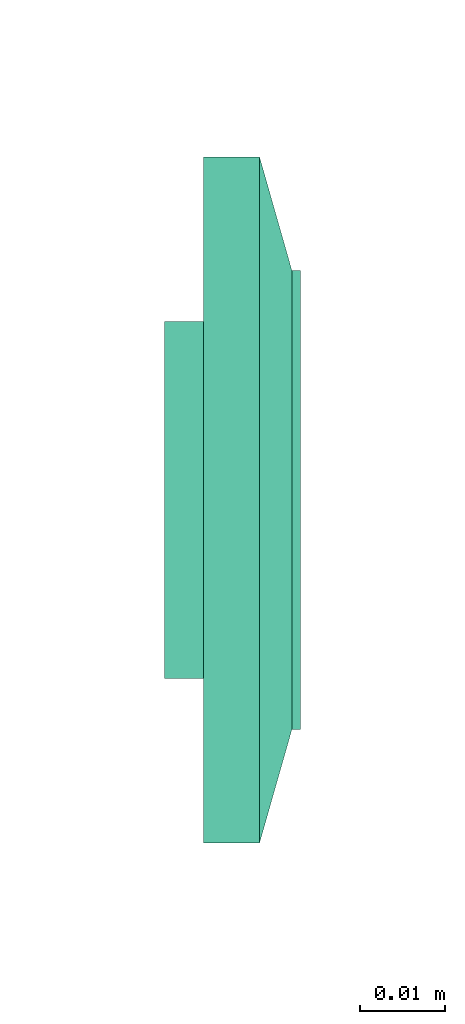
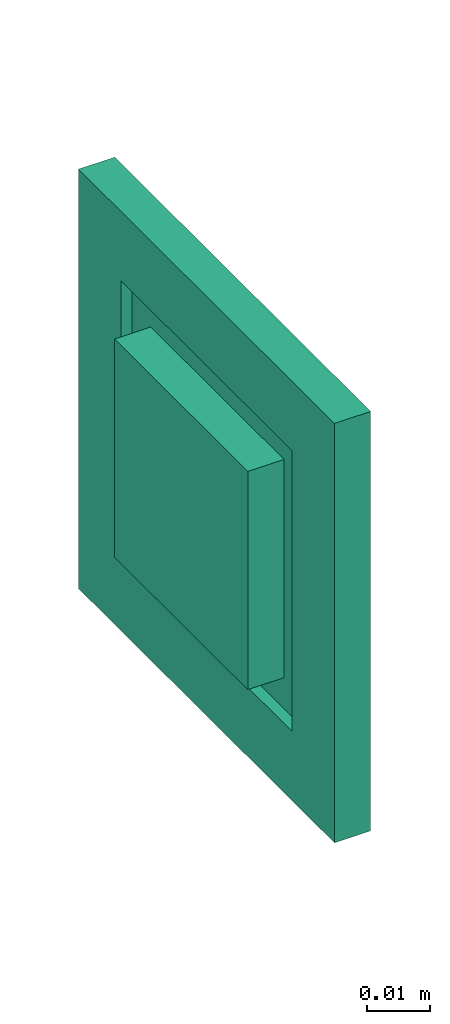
# One storey, part 11 of 146: 1 flow terminal.
"""IFC2X3 building model written with IfcOpenShell, lengths in metres."""

import ifcopenshell
import ifcopenshell.guid

model = None  # the IFC model being written
_history = None  # IfcOwnerHistory: only IFC2X3 demands one
_inside = {}  # id of a spatial element -> (the spatial element, [elements in it])
_under = {}  # id of a project, library or spatial element -> (it, [spatial elements below it])
_declared = {}  # id of a project -> (the project, [libraries it declares])
_typed = {}  # id of a type object -> (the type object, [elements of that type])
_made_of = {}  # id of a material, layer set ... -> (it, [elements and type objects made of it])


def new_model(schema):
    """Start an empty IFC model of exactly this schema.

    Asked for "IFC4X3", IfcOpenShell would pick the latest addendum, in which some entities
    have other attributes; the version numbers below select the first issue.
    IFC2X3 requires an IfcOwnerHistory on every rooted entity: one is made here for all.
    """
    global model, _history
    if schema == "IFC4X3":
        model = ifcopenshell.file(schema_version=(4, 3, 0, 0))
    else:
        model = ifcopenshell.file(schema=schema)
    _inside.clear()
    _under.clear()
    _declared.clear()
    _typed.clear()
    _made_of.clear()
    _history = None
    if model.schema == "IFC2X3":
        org = make("IfcOrganization", Name="unknown")
        user = make(
            "IfcPersonAndOrganization",
            ThePerson=make("IfcPerson", FamilyName="unknown"),
            TheOrganization=org,
        )
        app = make(
            "IfcApplication",
            ApplicationDeveloper=org,
            Version="unknown",
            ApplicationFullName="unknown",
            ApplicationIdentifier="unknown",
        )
        _history = make(
            "IfcOwnerHistory",
            OwningUser=user,
            OwningApplication=app,
            ChangeAction="ADDED",
            CreationDate=0,
        )
    return model


def make(cls, **values):
    """One entity of the class cls with the attributes given. An attribute that is None is left unset."""
    return model.create_entity(
        cls, **{name: value for name, value in values.items() if value is not None}
    )


def entity(cls, *values):
    """Any entity or typed value of the class cls, its attributes in the order of the schema. None: left unset."""
    e = model.create_entity(cls)
    for i, value in enumerate(values):
        if value is not None:
            e[i] = value
    return e


def rooted(cls, **values):
    """An entity with a GlobalId (a new one), such as an element, a storey or a relation."""
    return make(cls, GlobalId=ifcopenshell.guid.new(), OwnerHistory=_history, **values)


def si_unit(unit_type, name, prefix=None):
    """IfcSIUnit, for example si_unit("LENGTHUNIT", "METRE", prefix="MILLI")."""
    return make("IfcSIUnit", UnitType=unit_type, Prefix=prefix, Name=name)


def converted_unit(unit_type, name, factor, base, dimensions=None, offset=None):
    """IfcConversionBasedUnit, such as the inch: factor (a typed value) times the base unit."""
    return make(
        "IfcConversionBasedUnit"
        if offset is None
        else "IfcConversionBasedUnitWithOffset",
        ConversionOffset=offset,
        Dimensions=None
        if dimensions is None
        else entity("IfcDimensionalExponents", *dimensions),
        UnitType=unit_type,
        Name=name,
        ConversionFactor=make(
            "IfcMeasureWithUnit", ValueComponent=factor, UnitComponent=base
        ),
    )


def derived_unit(unit_type, elements):
    """IfcDerivedUnit: a product of units, each with its exponent."""
    return make(
        "IfcDerivedUnit",
        Elements=[
            make("IfcDerivedUnitElement", Unit=unit, Exponent=power)
            for unit, power in elements
        ],
        UnitType=unit_type,
    )


def assignment(units):
    """IfcUnitAssignment: the units of a project."""
    return None if units is None else make("IfcUnitAssignment", Units=units)


def point(xyz):
    """IfcCartesianPoint."""
    return None if xyz is None else make("IfcCartesianPoint", Coordinates=xyz)


def direction(xyz):
    """IfcDirection."""
    return None if xyz is None else make("IfcDirection", DirectionRatios=xyz)


def frame(location, z_axis=None, x_axis=None):
    """IfcAxis2Placement3D, a coordinate frame: its origin and axes. An axis left out is left unset."""
    return make(
        "IfcAxis2Placement3D",
        Location=point(location),
        Axis=direction(z_axis),
        RefDirection=direction(x_axis),
    )


def origin():
    """The frame at (0, 0, 0) with its axes left unset."""
    return frame((0.0, 0.0, 0.0))


def place(relative_to, where):
    """IfcLocalPlacement: puts the frame where relative to a parent placement (None: the world)."""
    return make(
        "IfcLocalPlacement", PlacementRelTo=relative_to, RelativePlacement=where
    )


def context(
    kind, dimensions, precision=None, world=None, true_north=None, identifier=None
):
    """IfcGeometricRepresentationContext, for example the 3D "Model" context."""
    return make(
        "IfcGeometricRepresentationContext",
        ContextIdentifier=identifier,
        ContextType=kind,
        CoordinateSpaceDimension=dimensions,
        Precision=precision,
        WorldCoordinateSystem=world,
        TrueNorth=true_north,
    )


def subcontext(parent, identifier, kind, view, scale=None):
    """IfcGeometricRepresentationSubContext, for example "Body" below "Model"."""
    return make(
        "IfcGeometricRepresentationSubContext",
        ContextIdentifier=identifier,
        ContextType=kind,
        ParentContext=parent,
        TargetScale=scale,
        TargetView=view,
    )


def project(units=None, contexts=None):
    """IfcProject with its units and contexts."""
    return rooted(
        "IfcProject",
        Name="project",
        RepresentationContexts=contexts,
        UnitsInContext=assignment(units),
    )


def spatial(cls, under=None, at=None, **own):
    """A site, building, storey or space (cls), placed at a placement, below another one or the project."""
    s = rooted(cls, ObjectPlacement=at, **own)
    if under is not None:
        _under.setdefault(under.id(), (under, []))[1].append(s)
    return s


def faces_of(points, faces, orient=None, outer=None):
    """IfcFace entities. A face is a list of loops; a loop is a list of indices into points, from 0.

    orient and outer hold one flag for each loop. By default every Orientation is true, the
    first loop of a face is its IfcFaceOuterBound and the others are IfcFaceBound.
    """
    made = []
    for i, loops in enumerate(faces):
        bounds = []
        for j, loop in enumerate(loops):
            is_outer = j == 0 if outer is None else outer[i][j]
            bounds.append(
                make(
                    "IfcFaceOuterBound" if is_outer else "IfcFaceBound",
                    Bound=make("IfcPolyLoop", Polygon=[points[k] for k in loop]),
                    Orientation=True if orient is None else orient[i][j],
                )
            )
        made.append(make("IfcFace", Bounds=bounds))
    return made


def faceted_brep(points, faces, orient=None, outer=None, voids=None):
    """IfcFacetedBrep: a solid bounded by flat faces; with voids (closed shells), ...WithVoids."""
    shared = [point(p) for p in points]
    hull = make("IfcClosedShell", CfsFaces=faces_of(shared, faces, orient, outer))
    if voids is None:
        return make("IfcFacetedBrep", Outer=hull)
    return make(
        "IfcFacetedBrepWithVoids",
        Outer=hull,
        Voids=[
            make(cls, CfsFaces=faces_of(shared, fs, o, b)) for cls, fs, o, b in voids
        ],
    )


def shape(context_of_items, identifier, shape_type, items):
    """IfcShapeRepresentation: the items that make up one representation, for example the "Body"."""
    return make(
        "IfcShapeRepresentation",
        ContextOfItems=context_of_items,
        RepresentationIdentifier=identifier,
        RepresentationType=shape_type,
        Items=items,
    )


def source(mapping_origin, context_of_items, identifier, shape_type, items):
    """IfcRepresentationMap: a shape defined once, which mapped items show again and again."""
    return make(
        "IfcRepresentationMap",
        MappingOrigin=mapping_origin,
        MappedRepresentation=shape(context_of_items, identifier, shape_type, items),
    )


def transform(
    local_origin,
    x_axis=None,
    y_axis=None,
    z_axis=None,
    scale=None,
    scale2=None,
    scale3=None,
    uniform=True,
):
    """IfcCartesianTransformationOperator3D, or its non-uniform kind. x_axis, y_axis, z_axis: its Axis1, 2, 3."""
    if uniform:
        return make(
            "IfcCartesianTransformationOperator3D",
            Axis1=direction(x_axis),
            Axis2=direction(y_axis),
            LocalOrigin=point(local_origin),
            Scale=scale,
            Axis3=direction(z_axis),
        )
    return make(
        "IfcCartesianTransformationOperator3DnonUniform",
        Axis1=direction(x_axis),
        Axis2=direction(y_axis),
        LocalOrigin=point(local_origin),
        Scale=scale,
        Axis3=direction(z_axis),
        Scale2=scale2,
        Scale3=scale3,
    )


def mapped(mapping_source, mapping_target):
    """IfcMappedItem: shows the shape of a source again, moved by a transform."""
    return make(
        "IfcMappedItem", MappingSource=mapping_source, MappingTarget=mapping_target
    )


def made_of(thing, what):
    """Note that an element or type object is made of a material, layer set ...; save() writes the relation."""
    if what is not None:
        _made_of.setdefault(what.id(), (what, []))[1].append(thing)
    return thing


def type_object(cls, material=None, **own):
    """A type object (cls), such as IfcWallType, which elements share."""
    return made_of(rooted(cls, **own), material)


def type_shapes(of_type, sources):
    """Give a type object the sources (RepresentationMaps) that its elements show as mapped items."""
    of_type.RepresentationMaps = sources


def element(
    cls,
    number,
    at=None,
    inside=None,
    cuts=None,
    type_object=None,
    material=None,
    context=None,
    identifier="Body",
    shape_type=None,
    held_by="IfcProductDefinitionShape",
    body=None,
    shapes=None,
    **own,
):
    """One element of the class cls, such as IfcWall. Its Tag is "e" and its number.

    at: its placement. inside: the storey or other place that contains it. cuts: it is an
    opening in that element (IfcRelVoidsElement). A single representation is given by context,
    identifier, shape_type and body (its items); several are given by shapes. held_by: the class
    of the entity that holds the representations. save() writes the other relations.
    """
    e = rooted(cls, Tag="e%d" % number, ObjectPlacement=at, **own)
    if body is not None:
        shapes = [shape(context, identifier, shape_type, body)]
    if shapes is not None:
        e.Representation = make(held_by, Representations=shapes)
    if inside is not None:
        _inside.setdefault(inside.id(), (inside, []))[1].append(e)
    if cuts is not None:
        rooted(
            "IfcRelVoidsElement", RelatingBuildingElement=cuts, RelatedOpeningElement=e
        )
    if type_object is not None:
        _typed.setdefault(type_object.id(), (type_object, []))[1].append(e)
    return made_of(e, material)


def aggregate(whole, parts):
    """IfcRelAggregates: a whole, such as a stair, and the parts it consists of."""
    return rooted("IfcRelAggregates", RelatingObject=whole, RelatedObjects=parts)


def save(model, path):
    """Write the relations noted so far, then the file.

    IfcRelAggregates (storeys below a building ...), IfcRelContainedInSpatialStructure (elements
    in a storey), IfcRelDefinesByType, IfcRelAssociatesMaterial and IfcRelDeclares: one each for
    every whole, place, type object, material and project.
    """
    for whole, parts in _under.values():
        aggregate(whole, parts)
    for where, things in _inside.values():
        rooted(
            "IfcRelContainedInSpatialStructure",
            RelatedElements=things,
            RelatingStructure=where,
        )
    for kind, things in _typed.values():
        rooted("IfcRelDefinesByType", RelatedObjects=things, RelatingType=kind)
    for what, things in _made_of.values():
        rooted("IfcRelAssociatesMaterial", RelatedObjects=things, RelatingMaterial=what)
    for by, libraries in _declared.values():
        rooted("IfcRelDeclares", RelatingContext=by, RelatedDefinitions=libraries)
    model.write(path)


model = new_model("IFC2X3")

# Units and contexts
model_context = context("Model", 3, precision=1e-05, world=origin(), true_north=direction((6.12303176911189e-17, 1.0)))
body_context = subcontext(model_context, "Body", "Model", "MODEL_VIEW")
ifc_project = project(units=[si_unit("LENGTHUNIT", "METRE"), si_unit("AREAUNIT", "SQUARE_METRE"), si_unit("VOLUMEUNIT", "CUBIC_METRE"), converted_unit("PLANEANGLEUNIT", "DEGREE", entity("IfcRatioMeasure", 0.0174532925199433), si_unit("PLANEANGLEUNIT", "RADIAN"), dimensions=[0, 0, 0, 0, 0, 0, 0]), si_unit("MASSUNIT", "GRAM", prefix="KILO"), derived_unit("MASSDENSITYUNIT", [(si_unit("MASSUNIT", "GRAM", prefix="KILO"), 1), (si_unit("LENGTHUNIT", "METRE"), -3)]), si_unit("TIMEUNIT", "SECOND"), si_unit("FREQUENCYUNIT", "HERTZ"), si_unit("THERMODYNAMICTEMPERATUREUNIT", "DEGREE_CELSIUS"), derived_unit("THERMALTRANSMITTANCEUNIT", [(si_unit("MASSUNIT", "GRAM", prefix="KILO"), 1), (si_unit("THERMODYNAMICTEMPERATUREUNIT", "KELVIN"), -1), (si_unit("TIMEUNIT", "SECOND"), -3)]), derived_unit("VOLUMETRICFLOWRATEUNIT", [(si_unit("LENGTHUNIT", "METRE"), 3), (si_unit("TIMEUNIT", "SECOND"), -1)]), si_unit("ELECTRICCURRENTUNIT", "AMPERE"), si_unit("ELECTRICVOLTAGEUNIT", "VOLT"), si_unit("POWERUNIT", "WATT"), si_unit("FORCEUNIT", "NEWTON"), si_unit("ILLUMINANCEUNIT", "LUX"), si_unit("LUMINOUSFLUXUNIT", "LUMEN"), si_unit("LUMINOUSINTENSITYUNIT", "CANDELA"), derived_unit("USERDEFINED", [(si_unit("MASSUNIT", "GRAM", prefix="KILO"), -1), (si_unit("LENGTHUNIT", "METRE"), -2), (si_unit("TIMEUNIT", "SECOND"), 3), (si_unit("LUMINOUSFLUXUNIT", "LUMEN"), 1)]), derived_unit("LINEARVELOCITYUNIT", [(si_unit("LENGTHUNIT", "METRE"), 1), (si_unit("TIMEUNIT", "SECOND"), -1)]), si_unit("PRESSUREUNIT", "PASCAL"), derived_unit("USERDEFINED", [(si_unit("LENGTHUNIT", "METRE"), -2), (si_unit("MASSUNIT", "GRAM", prefix="KILO"), 1), (si_unit("TIMEUNIT", "SECOND"), -2)])], contexts=[model_context])

# Site, building, storey
site_placement = place(None, origin())
site = spatial("IfcSite", under=ifc_project, at=site_placement, Name="Default", CompositionType="ELEMENT")
building_placement = place(site_placement, origin())
building = spatial("IfcBuilding", under=site, at=building_placement, CompositionType="ELEMENT")
storey_placement = place(building_placement, origin())
storey = spatial("IfcBuildingStorey", under=building, at=storey_placement, Name="S01", CompositionType="ELEMENT", Elevation=0.0)

# Flow terminal
electric_appliance_type = type_object("IfcElectricApplianceType", Name="RJ45 IP20", PredefinedType="NOTDEFINED")
shared_shape = source(origin(), body_context, "Body", "Brep", [
    faceted_brep([(0.00200000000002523, 0.0, 0.00799999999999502), (0.00400000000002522, 0.0, 0.00799999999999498), (0.00500000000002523, 0.00199999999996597, 0.00799999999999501), (0.0110000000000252, 0.00199999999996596, 0.00799999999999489), (0.0120000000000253, 0.0, 0.00799999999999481), (0.0140000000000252, 0.0, 0.00799999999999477), (0.0140000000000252, 0.00399999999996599, 0.00799999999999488), (0.00200000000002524, 0.00399999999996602, 0.00799999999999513), (0.00200000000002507, 0.0, 0.0), (0.00200000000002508, 0.00399999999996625, 0.0), (0.0140000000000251, 0.00399999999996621, 0.0), (0.0140000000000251, 0.0, 0.0), (0.0120000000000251, 0.0, 0.0), (0.0110000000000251, 0.00199999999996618, 0.0), (0.00500000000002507, 0.0019999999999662, 0.0), (0.00400000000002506, 0.0, 0.0)], [[[0, 1, 2, 3, 4, 5, 6, 7]], [[8, 9, 10, 11, 12, 13, 14, 15]], [[1, 0, 8, 15]], [[2, 1, 15, 14]], [[3, 2, 14, 13]], [[4, 3, 13, 12]], [[5, 4, 12, 11]], [[6, 5, 11, 10]], [[7, 6, 10, 9]], [[0, 7, 9, 8]]]),
    faceted_brep([(-0.0139999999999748, 0.0, 0.00799999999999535), (-0.0119999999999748, 0.0, 0.00799999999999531), (-0.0109999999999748, 0.00199999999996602, 0.00799999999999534), (-0.00499999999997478, 0.00199999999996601, 0.00799999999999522), (-0.0039999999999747, 0.0, 0.00799999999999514), (-0.00199999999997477, 0.0, 0.0079999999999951), (-0.00199999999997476, 0.00399999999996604, 0.00799999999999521), (-0.0139999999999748, 0.00399999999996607, 0.00799999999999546), (-0.0139999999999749, 0.0, 0.0), (-0.0139999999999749, 0.00399999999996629, 0.0), (-0.00199999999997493, 0.00399999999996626, 0.0), (-0.00199999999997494, 0.0, 0.0), (-0.00399999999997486, 0.0, 0.0), (-0.00499999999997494, 0.00199999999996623, 0.0), (-0.0109999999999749, 0.00199999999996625, 0.0), (-0.0119999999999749, 0.0, 0.0)], [[[0, 1, 2, 3, 4, 5, 6, 7]], [[8, 9, 10, 11, 12, 13, 14, 15]], [[1, 0, 8, 15]], [[2, 1, 15, 14]], [[3, 2, 14, 13]], [[4, 3, 13, 12]], [[5, 4, 12, 11]], [[6, 5, 11, 10]], [[7, 6, 10, 9]], [[0, 7, 9, 8]]]),
    faceted_brep([(0.0140000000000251, 0.00399999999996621, 0.0), (0.00200000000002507, 0.00399999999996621, 0.0), (0.00200000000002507, -0.00350000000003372, 0.0), (0.0140000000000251, -0.00350000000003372, 0.0), (0.0140000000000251, 0.00399999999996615, 0.00199999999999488), (0.00200000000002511, 0.00399999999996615, 0.00199999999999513), (0.00200000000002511, -0.00393859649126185, 0.00199999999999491), (0.0140000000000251, -0.00393859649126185, 0.00199999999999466), (0.0210000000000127, 0.0209999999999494, 0.00199999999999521), (-0.0209999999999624, 0.0209999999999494, 0.00199999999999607), (-0.0209999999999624, -0.0210000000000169, 0.00199999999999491), (0.0210000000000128, -0.0210000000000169, 0.00199999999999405), (-0.0139999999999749, 0.0039999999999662, 0.00199999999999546), (-0.0019999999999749, 0.0039999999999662, 0.00199999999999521), (-0.00199999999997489, -0.0039385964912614, 0.00199999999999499), (-0.0139999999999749, -0.00393859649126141, 0.00199999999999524), (0.0210000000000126, 0.0209999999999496, -0.00460000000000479), (0.0210000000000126, -0.0210000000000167, -0.00460000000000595), (-0.0209999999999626, -0.0210000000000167, -0.00460000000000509), (-0.0209999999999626, 0.0209999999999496, -0.00460000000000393), (-0.00199999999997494, 0.00399999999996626, 0.0), (-0.0139999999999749, 0.00399999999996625, 0.0), (-0.0139999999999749, -0.00350000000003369, 0.0), (-0.00199999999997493, -0.00350000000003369, 0.0)], [[[0, 1, 2, 3]], [[1, 0, 4, 5]], [[2, 1, 5, 6]], [[3, 2, 6, 7]], [[0, 3, 7, 4]], [[5, 4, 7, 6], [8, 9, 10, 11], [12, 13, 14, 15]], [[16, 17, 18, 19]], [[9, 8, 16, 19]], [[10, 9, 19, 18]], [[11, 10, 18, 17]], [[8, 11, 17, 16]], [[20, 21, 22, 23]], [[21, 20, 13, 12]], [[22, 21, 12, 15]], [[23, 22, 15, 14]], [[20, 23, 14, 13]]], outer=[[True], [True], [True], [True], [True], [False, True, False], [True], [True], [True], [True], [True], [True], [True], [True], [True], [True]]),
    faceted_brep([(0.0270000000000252, 0.026999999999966, 0.0113999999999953), (-0.0269999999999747, 0.026999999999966, 0.0113999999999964), (-0.0269999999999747, -0.0270000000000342, 0.0113999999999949), (0.0270000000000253, -0.0270000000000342, 0.0113999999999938), (0.0020000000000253, 0.00399999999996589, 0.0113999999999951), (0.0140000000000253, 0.00399999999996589, 0.0113999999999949), (0.0140000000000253, -0.00600000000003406, 0.0113999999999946), (0.0020000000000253, -0.00600000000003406, 0.0113999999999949), (-0.0139999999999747, 0.00399999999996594, 0.0113999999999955), (-0.00199999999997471, 0.00399999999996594, 0.0113999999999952), (-0.00199999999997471, -0.0060000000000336, 0.0113999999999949), (-0.0139999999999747, -0.00600000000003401, 0.0113999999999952), (0.0270000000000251, 0.0269999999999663, 0.00199999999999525), (0.0270000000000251, -0.0270000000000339, 0.00199999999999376), (-0.0269999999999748, -0.0270000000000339, 0.00199999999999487), (-0.0269999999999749, 0.0269999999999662, 0.00199999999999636), (0.0140000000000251, 0.00399999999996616, 0.00199999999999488), (0.00200000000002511, 0.00399999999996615, 0.00199999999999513), (0.00200000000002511, -0.00393859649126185, 0.00199999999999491), (0.0140000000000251, -0.00393859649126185, 0.00199999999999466), (-0.00199999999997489, 0.0039999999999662, 0.00199999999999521), (-0.0139999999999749, 0.0039999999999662, 0.00199999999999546), (-0.0139999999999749, -0.0039385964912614, 0.00199999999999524), (-0.00199999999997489, -0.0039385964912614, 0.00199999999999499)], [[[0, 1, 2, 3], [4, 5, 6, 7], [8, 9, 10, 11]], [[12, 13, 14, 15], [16, 17, 18, 19], [20, 21, 22, 23]], [[1, 0, 12, 15]], [[2, 1, 15, 14]], [[3, 2, 14, 13]], [[0, 3, 13, 12]], [[4, 17, 16, 5]], [[17, 4, 7, 18]], [[18, 7, 6, 19]], [[5, 16, 19, 6]], [[8, 21, 20, 9]], [[21, 8, 11, 22]], [[22, 11, 10, 23]], [[9, 20, 23, 10]]]),
    faceted_brep([(0.027000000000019, 0.0269999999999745, 0.00659999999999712), (-0.0269999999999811, 0.0269999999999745, 0.00659999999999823), (-0.026999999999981, -0.0270000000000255, 0.00659999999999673), (0.027000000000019, -0.0270000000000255, 0.00659999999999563), (0.040350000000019, 0.0403499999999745, 0.00659999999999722), (0.040350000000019, -0.0403500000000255, 0.00659999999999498), (-0.0403499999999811, -0.0403500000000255, 0.00659999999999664), (-0.0403499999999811, 0.0403499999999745, 0.00659999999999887), (-0.026999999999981, 0.0269999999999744, 0.0103999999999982), (0.027000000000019, 0.0269999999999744, 0.0103999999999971), (-0.026999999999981, -0.0270000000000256, 0.0103999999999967), (0.027000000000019, -0.0270000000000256, 0.0103999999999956)], [[[0, 1, 2, 3], [4, 5, 6, 7]], [[4, 7, 8, 9]], [[7, 6, 10, 8]], [[6, 5, 11, 10]], [[5, 4, 9, 11]], [[0, 9, 8, 1]], [[1, 8, 10, 2]], [[2, 10, 11, 3]], [[9, 0, 3, 11]]], outer=[[False, True], [True], [True], [True], [True], [True], [True], [True], [True]]),
    faceted_brep([(0.040350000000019, 0.0403499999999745, 0.00659999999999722), (-0.0403499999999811, 0.0403499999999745, 0.00659999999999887), (-0.0403499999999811, -0.0403500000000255, 0.00659999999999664), (0.040350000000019, -0.0403500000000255, 0.00659999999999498), (-0.0269999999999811, 0.0269999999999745, 0.00659999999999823), (0.0270000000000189, 0.0269999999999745, 0.00659999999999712), (0.0270000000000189, -0.0270000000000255, 0.00659999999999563), (-0.0269999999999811, -0.0270000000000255, 0.00659999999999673), (0.0403500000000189, 0.0403499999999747, 0.0), (0.0403500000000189, -0.0403500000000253, 0.0), (-0.0403499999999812, -0.0403500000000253, 0.0), (-0.0403499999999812, 0.0403499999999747, 0.0), (0.0270000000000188, 0.0269999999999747, 0.0), (-0.0269999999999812, 0.0269999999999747, 0.0), (-0.0269999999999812, -0.0270000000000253, 0.0), (0.0270000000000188, -0.0270000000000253, 0.0)], [[[0, 1, 2, 3], [4, 5, 6, 7]], [[8, 9, 10, 11], [12, 13, 14, 15]], [[1, 0, 8, 11]], [[2, 1, 11, 10]], [[3, 2, 10, 9]], [[0, 3, 9, 8]], [[12, 5, 4, 13]], [[13, 4, 7, 14]], [[14, 7, 6, 15]], [[5, 12, 15, 6]]]),
])
type_shapes(electric_appliance_type, [shared_shape])
flow_terminal_placement = place(storey_placement, frame((26.1922872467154, -188.8444508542, 0.320000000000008), z_axis=(1.0, 0.0, 0.0), x_axis=(0.0, 1.0, 0.0)))
element("IfcFlowTerminal", 1, at=flow_terminal_placement, inside=storey, type_object=electric_appliance_type, Name="INT_Prise RJ45:RJ45 IP20", ObjectType="INT_Prise RJ45:RJ45 IP20", context=body_context, shape_type="MappedRepresentation", body=[
    mapped(shared_shape, transform((0.0, 0.0, 0.0), scale=1.0)),
])

save(model, "model.ifc")
